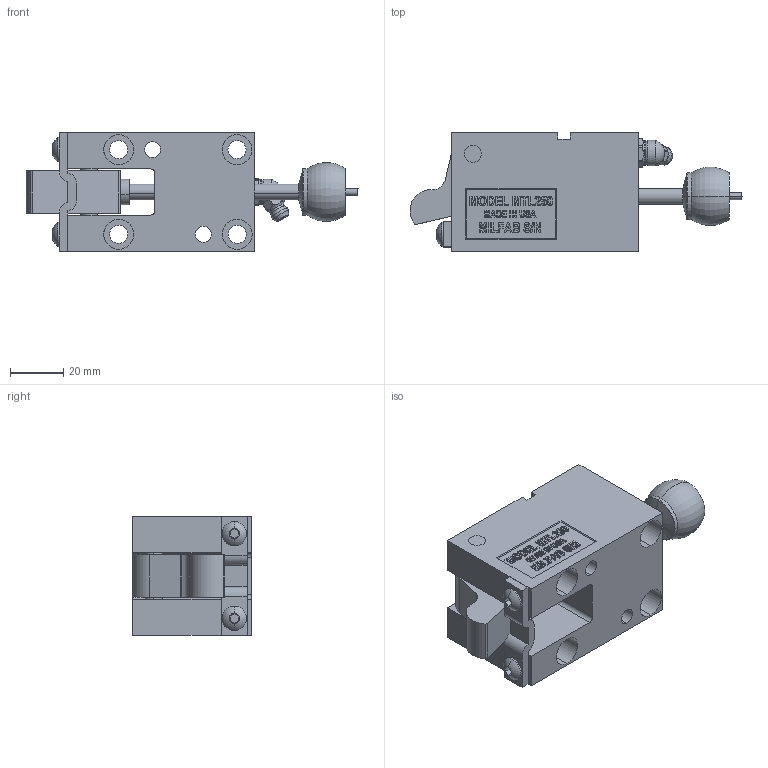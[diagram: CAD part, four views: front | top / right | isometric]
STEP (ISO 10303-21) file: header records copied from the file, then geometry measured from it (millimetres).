
FILE_DESCRIPTION (( 'STEP AP214' ), '1' );
FILE_NAME ('MTL25045-C.STEP', '2014-01-08T19:18:48', ( 'user' ), ( '' ), 'SwSTEP 2.0', 'SolidWorks 2009', '' );
FILE_SCHEMA (( 'AUTOMOTIVE_DESIGN' ));
Length unit declared in the file: inch
Products named in the file (11): MTL25045-C; MTL250-BODY; 250-OFFSET TRIGGER; 250-I-STRAP; GREASE ZERK; 250 STRIPPER CLOSED; M-I-250-POINT; ML250-PUNCH; 250-WASHER; 250 PIVOT PIN; 10-SCREW
Assembly tree (11 placements, depth 2):
  MTL25045-C
    10-SCREW  x2
    250-I-STRAP
    MTL250-BODY
    250 PIVOT PIN
    250-WASHER
    250 STRIPPER CLOSED
    250-OFFSET TRIGGER
    M-I-250-POINT
    GREASE ZERK
    ML250-PUNCH
Bounding box: 124.4 x 44.45 x 44.45 mm (x, y, z)
Volume: 115324.6 mm3; surface area: 37200.8 mm2
Topology: 11 solids, 11 shells, 595 faces, 1531 edges, 1004 vertices
Faces by surface type: plane 354, cylinder 98, bspline 87, cone 30, torus 26
Entity records: 23108 total; most frequent: CARTESIAN_POINT 9046, ORIENTED_EDGE 2978, DIRECTION 2469, EDGE_CURVE 1489, LINE 997, VECTOR 997, VERTEX_POINT 980, AXIS2_PLACEMENT_3D 736
